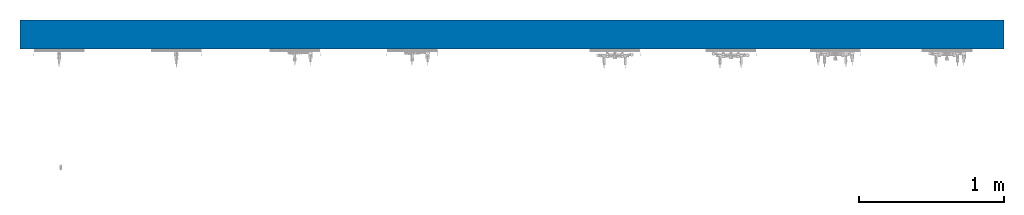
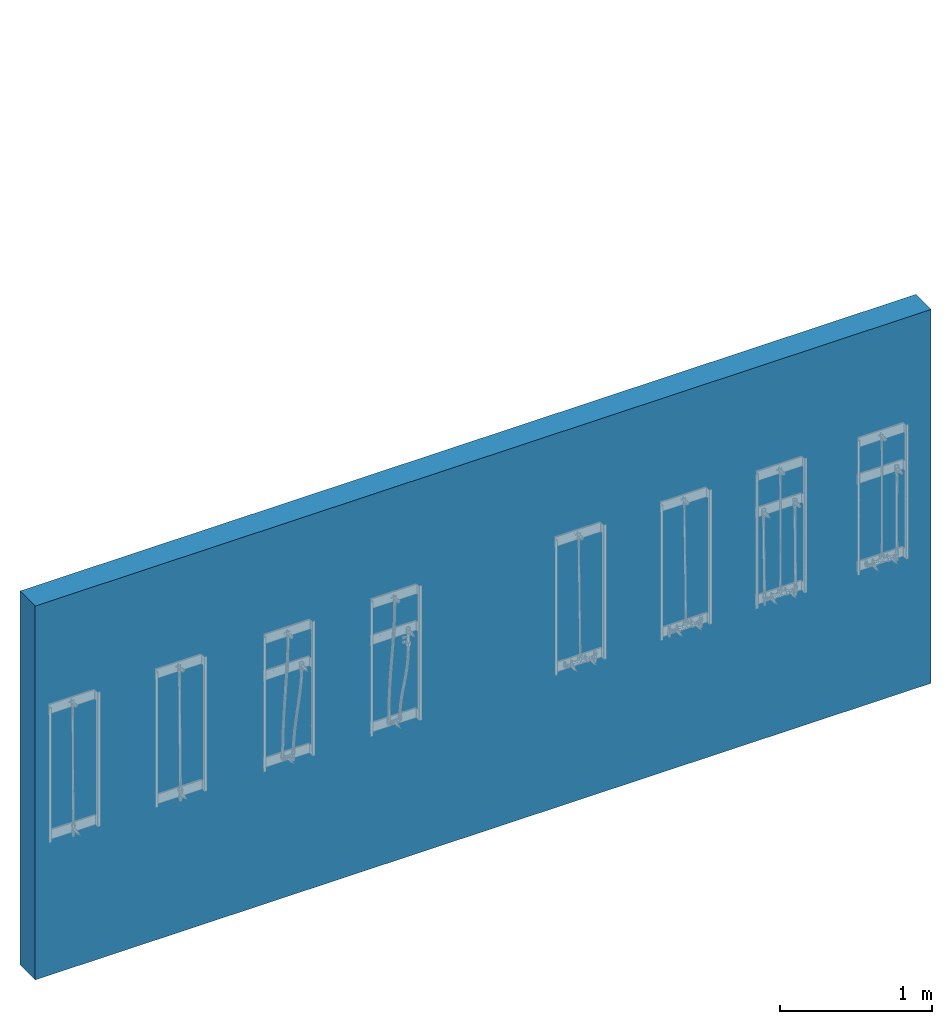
# One storey, part 1 of 2: 1 wall.
"""IFC2X3 building model written with IfcOpenShell, lengths in millimetres."""

from ifc_helpers import new_model, entity, si_unit, converted_unit, derived_unit, direction, frame, frame_2d, origin, place, context, subcontext, project, spatial, rectangle, extrude, material, layer, layer_set, layer_usage, type_object, element, save


model = new_model("IFC2X3")

# Units and contexts
model_context = context("Model", 3, precision=0.01, world=origin(), true_north=direction((6.12303176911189e-17, 1.0)))
body_context = subcontext(model_context, "Body", "Model", "MODEL_VIEW")
ifc_project = project(units=[si_unit("LENGTHUNIT", "METRE", prefix="MILLI"), si_unit("AREAUNIT", "SQUARE_METRE"), si_unit("VOLUMEUNIT", "CUBIC_METRE"), converted_unit("PLANEANGLEUNIT", "DEGREE", entity("IfcRatioMeasure", 0.0174532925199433), si_unit("PLANEANGLEUNIT", "RADIAN"), dimensions=[0, 0, 0, 0, 0, 0, 0]), si_unit("MASSUNIT", "GRAM", prefix="KILO"), derived_unit("MASSDENSITYUNIT", [(si_unit("MASSUNIT", "GRAM", prefix="KILO"), 1), (si_unit("LENGTHUNIT", "METRE"), -3)]), derived_unit("MOMENTOFINERTIAUNIT", [(si_unit("LENGTHUNIT", "METRE"), 4)]), si_unit("TIMEUNIT", "SECOND"), si_unit("FREQUENCYUNIT", "HERTZ"), si_unit("THERMODYNAMICTEMPERATUREUNIT", "DEGREE_CELSIUS"), derived_unit("THERMALTRANSMITTANCEUNIT", [(si_unit("MASSUNIT", "GRAM", prefix="KILO"), 1), (si_unit("THERMODYNAMICTEMPERATUREUNIT", "KELVIN"), -1), (si_unit("TIMEUNIT", "SECOND"), -3)]), derived_unit("VOLUMETRICFLOWRATEUNIT", [(si_unit("LENGTHUNIT", "METRE"), 3), (si_unit("TIMEUNIT", "SECOND"), -1)]), si_unit("ELECTRICCURRENTUNIT", "AMPERE"), si_unit("ELECTRICVOLTAGEUNIT", "VOLT"), si_unit("POWERUNIT", "WATT"), si_unit("FORCEUNIT", "NEWTON", prefix="KILO"), si_unit("ILLUMINANCEUNIT", "LUX"), si_unit("LUMINOUSFLUXUNIT", "LUMEN"), si_unit("LUMINOUSINTENSITYUNIT", "CANDELA"), derived_unit("USERDEFINED", [(si_unit("MASSUNIT", "GRAM", prefix="KILO"), -1), (si_unit("LENGTHUNIT", "METRE"), -2), (si_unit("TIMEUNIT", "SECOND"), 3), (si_unit("LUMINOUSFLUXUNIT", "LUMEN"), 1)]), derived_unit("LINEARVELOCITYUNIT", [(si_unit("LENGTHUNIT", "METRE"), 1), (si_unit("TIMEUNIT", "SECOND"), -1)]), si_unit("PRESSUREUNIT", "PASCAL"), derived_unit("USERDEFINED", [(si_unit("LENGTHUNIT", "METRE"), -2), (si_unit("MASSUNIT", "GRAM", prefix="KILO"), 1), (si_unit("TIMEUNIT", "SECOND"), -2)]), derived_unit("LINEARFORCEUNIT", [(si_unit("MASSUNIT", "GRAM", prefix="KILO"), 1), (si_unit("LENGTHUNIT", "METRE"), 1), (si_unit("TIMEUNIT", "SECOND"), -2), (si_unit("LENGTHUNIT", "METRE"), -1)]), derived_unit("PLANARFORCEUNIT", [(si_unit("MASSUNIT", "GRAM", prefix="KILO"), 1), (si_unit("LENGTHUNIT", "METRE"), 1), (si_unit("TIMEUNIT", "SECOND"), -2), (si_unit("LENGTHUNIT", "METRE"), -2)])], contexts=[model_context])

# Site, building, storey
site_placement = place(None, origin())
site = spatial("IfcSite", under=ifc_project, at=site_placement, Name="Default", CompositionType="ELEMENT")
building_placement = place(site_placement, origin())
building = spatial("IfcBuilding", under=site, at=building_placement, CompositionType="ELEMENT")
storey_placement = place(building_placement, origin())
storey = spatial("IfcBuildingStorey", under=building, at=storey_placement, Name="Nível 1", CompositionType="ELEMENT", Elevation=0.0)

# Wall
ifc_material = material(Name="Material pré-definido de parede")
ifc_layer = layer(ifc_material, 200.0)
ifc_layer_set = layer_set([ifc_layer], Name="Parede básica:Genérico - 200 mm")
ifc_layer_usage = layer_usage(ifc_layer_set, "AXIS2", "NEGATIVE", 100.0)
wall_type = type_object("IfcWallType", Name="Parede básica:Genérico - 200 mm", PredefinedType="STANDARD", material=ifc_layer_set)
wall_placement = place(storey_placement, frame((-5504.03083449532, 4852.25383950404, 0.0)))
element("IfcWallStandardCase", 1, at=wall_placement, inside=storey, type_object=wall_type, material=ifc_layer_usage, Name="Parede básica:Genérico - 200 mm", ObjectType="Parede básica:Genérico - 200 mm", context=body_context, shape_type="SweptSolid", body=[
    extrude(rectangle(XDim=6800.0, YDim=199.999999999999, at=frame_2d((3400.0, -2.1316282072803e-13), x_axis=(-1.0, 0.0))), origin(), (0.0, 0.0, 1.0), 3000.0),
])

save(model, "model.ifc")
